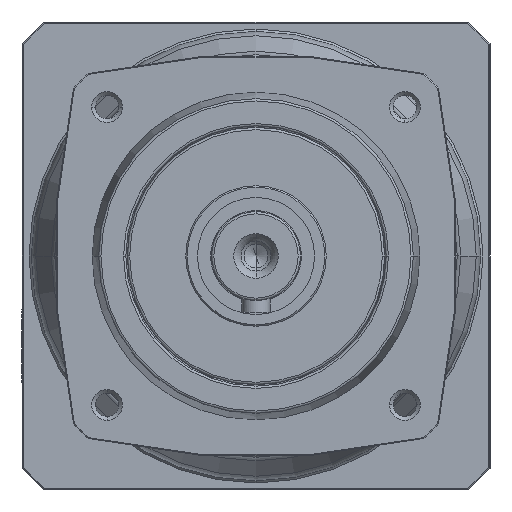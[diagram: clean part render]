
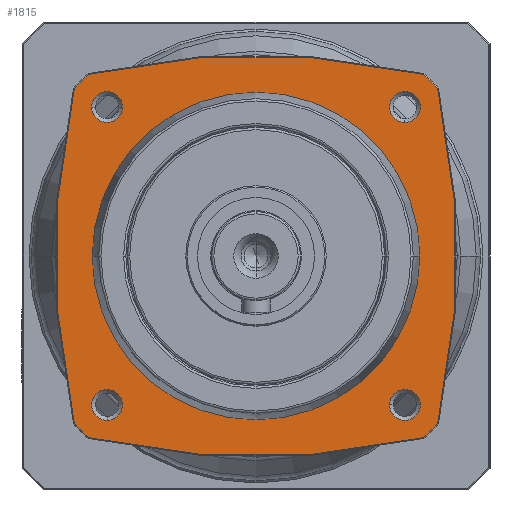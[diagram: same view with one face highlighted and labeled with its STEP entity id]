
A CAD part, left-side view. The second image highlights one B-rep face of the part: STEP entity #1815.
In plain terms, the highlighted planar face has unit normal (-1, 0, 0).
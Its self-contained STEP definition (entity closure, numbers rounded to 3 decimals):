
#332=CARTESIAN_POINT('',(12.5,31.82,31.82));
#333=DIRECTION('',(1.,0.,0.));
#334=DIRECTION('',(0.,-1.,0.));
#335=AXIS2_PLACEMENT_3D('',#332,#333,#334);
#337=CARTESIAN_POINT('',(12.5,31.82,31.82));
#338=DIRECTION('',(1.,0.,0.));
#339=DIRECTION('',(0.,1.,0.));
#340=AXIS2_PLACEMENT_3D('',#337,#338,#339);
#342=CARTESIAN_POINT('',(12.5,31.82,-31.82));
#343=DIRECTION('',(1.,0.,0.));
#344=DIRECTION('',(0.,0.,-1.));
#345=AXIS2_PLACEMENT_3D('',#342,#343,#344);
#347=CARTESIAN_POINT('',(12.5,31.82,-31.82));
#348=DIRECTION('',(1.,0.,0.));
#349=DIRECTION('',(0.,0.,1.));
#350=AXIS2_PLACEMENT_3D('',#347,#348,#349);
#352=CARTESIAN_POINT('',(12.5,-31.82,-31.82));
#353=DIRECTION('',(1.,0.,0.));
#354=DIRECTION('',(0.,-1.,0.));
#355=AXIS2_PLACEMENT_3D('',#352,#353,#354);
#357=CARTESIAN_POINT('',(12.5,-31.82,-31.82));
#358=DIRECTION('',(1.,0.,0.));
#359=DIRECTION('',(0.,1.,0.));
#360=AXIS2_PLACEMENT_3D('',#357,#358,#359);
#362=CARTESIAN_POINT('',(12.5,-31.82,31.82));
#363=DIRECTION('',(1.,0.,0.));
#364=DIRECTION('',(0.,0.,1.));
#365=AXIS2_PLACEMENT_3D('',#362,#363,#364);
#367=CARTESIAN_POINT('',(12.5,-31.82,31.82));
#368=DIRECTION('',(1.,0.,0.));
#369=DIRECTION('',(0.,0.,-1.));
#370=AXIS2_PLACEMENT_3D('',#367,#368,#369);
#372=CARTESIAN_POINT('',(12.5,0.,0.));
#373=DIRECTION('',(-1.,0.,0.));
#374=DIRECTION('',(0.,1.,0.));
#375=AXIS2_PLACEMENT_3D('',#372,#373,#374);
#377=CARTESIAN_POINT('',(12.5,0.,0.));
#378=DIRECTION('',(-1.,0.,0.));
#379=DIRECTION('',(0.,-1.,0.));
#380=AXIS2_PLACEMENT_3D('',#377,#378,#379);
#382=CARTESIAN_POINT('',(12.5,-120.,0.));
#383=DIRECTION('',(-1.,0.,0.));
#384=DIRECTION('',(0.,0.976,0.22));
#385=AXIS2_PLACEMENT_3D('',#382,#383,#384);
#387=CARTESIAN_POINT('',(12.5,0.,0.));
#388=DIRECTION('',(-1.,0.,0.));
#389=DIRECTION('',(0.,0.678,0.735));
#390=AXIS2_PLACEMENT_3D('',#387,#388,#389);
#392=CARTESIAN_POINT('',(12.5,0.,-120.));
#393=DIRECTION('',(-1.,0.,0.));
#394=DIRECTION('',(0.,-0.22,0.976));
#395=AXIS2_PLACEMENT_3D('',#392,#393,#394);
#397=CARTESIAN_POINT('',(12.5,0.,0.));
#398=DIRECTION('',(-1.,0.,0.));
#399=DIRECTION('',(0.,-0.735,0.678));
#400=AXIS2_PLACEMENT_3D('',#397,#398,#399);
#402=CARTESIAN_POINT('',(12.5,120.,0.));
#403=DIRECTION('',(-1.,0.,0.));
#404=DIRECTION('',(0.,-0.976,-0.22));
#405=AXIS2_PLACEMENT_3D('',#402,#403,#404);
#407=CARTESIAN_POINT('',(12.5,0.,0.));
#408=DIRECTION('',(-1.,0.,0.));
#409=DIRECTION('',(0.,-0.678,-0.735));
#410=AXIS2_PLACEMENT_3D('',#407,#408,#409);
#412=CARTESIAN_POINT('',(12.5,0.,120.));
#413=DIRECTION('',(-1.,0.,0.));
#414=DIRECTION('',(0.,0.22,-0.976));
#415=AXIS2_PLACEMENT_3D('',#412,#413,#414);
#417=CARTESIAN_POINT('',(12.5,0.,0.));
#418=DIRECTION('',(-1.,0.,0.));
#419=DIRECTION('',(0.,0.735,-0.678));
#420=AXIS2_PLACEMENT_3D('',#417,#418,#419);
#815=CARTESIAN_POINT('',(12.5,-35.792,38.817));
#822=CARTESIAN_POINT('',(12.5,35.792,38.817));
#843=CARTESIAN_POINT('',(12.5,35.792,-38.817));
#864=CARTESIAN_POINT('',(12.5,-38.817,35.792));
#1081=CARTESIAN_POINT('',(12.5,28.52,31.82));
#1082=CARTESIAN_POINT('',(12.5,35.12,31.82));
#1083=VERTEX_POINT('',#1081);
#1084=VERTEX_POINT('',#1082);
#1085=CARTESIAN_POINT('',(12.5,31.82,-35.12));
#1086=CARTESIAN_POINT('',(12.5,31.82,-28.52));
#1087=VERTEX_POINT('',#1085);
#1088=VERTEX_POINT('',#1086);
#1089=CARTESIAN_POINT('',(12.5,-35.12,
-31.82));
#1090=CARTESIAN_POINT('',(12.5,-28.52,
-31.82));
#1091=VERTEX_POINT('',#1089);
#1092=VERTEX_POINT('',#1090);
#1093=CARTESIAN_POINT('',(12.5,-31.82,35.12));
#1094=CARTESIAN_POINT('',(12.5,-31.82,28.52));
#1095=VERTEX_POINT('',#1093);
#1096=VERTEX_POINT('',#1094);
#1105=CARTESIAN_POINT('',(12.5,38.817,35.792));
#1106=CARTESIAN_POINT('',(12.5,38.817,-35.792));
#1107=VERTEX_POINT('',#1105);
#1108=VERTEX_POINT('',#1106);
#1114=VERTEX_POINT('',#815);
#1116=VERTEX_POINT('',#822);
#1156=VERTEX_POINT('',#864);
#1164=VERTEX_POINT('',#843);
#1169=CARTESIAN_POINT('',(12.5,-38.817,-35.792));
#1170=VERTEX_POINT('',#1169);
#1171=CARTESIAN_POINT('',(12.5,-35.792,-38.817));
#1172=VERTEX_POINT('',#1171);
#1183=CARTESIAN_POINT('',(12.5,35.,0.));
#1184=CARTESIAN_POINT('',(12.5,-35.,0.));
#1185=VERTEX_POINT('',#1183);
#1186=VERTEX_POINT('',#1184);
#1763=CARTESIAN_POINT('',(12.5,0.,0.));
#1764=DIRECTION('',(-1.,0.,0.));
#1765=DIRECTION('',(0.,1.,0.));
#1766=AXIS2_PLACEMENT_3D('',#1763,#1764,#1765);
#1767=PLANE('',#1766);
#1769=ORIENTED_EDGE('',*,*,#1768,.F.);
#1771=ORIENTED_EDGE('',*,*,#1770,.F.);
#1773=ORIENTED_EDGE('',*,*,#1772,.F.);
#1775=ORIENTED_EDGE('',*,*,#1774,.F.);
#1777=ORIENTED_EDGE('',*,*,#1776,.F.);
#1779=ORIENTED_EDGE('',*,*,#1778,.F.);
#1781=ORIENTED_EDGE('',*,*,#1780,.F.);
#1783=ORIENTED_EDGE('',*,*,#1782,.F.);
#1784=EDGE_LOOP('',(#1769,#1771,#1773,#1775,#1777,#1779,#1781,#1783));
#1785=FACE_OUTER_BOUND('',#1784,.F.);
#1787=ORIENTED_EDGE('',*,*,#1786,.F.);
#1789=ORIENTED_EDGE('',*,*,#1788,.F.);
#1790=EDGE_LOOP('',(#1787,#1789));
#1791=FACE_BOUND('',#1790,.F.);
#1793=ORIENTED_EDGE('',*,*,#1792,.F.);
#1795=ORIENTED_EDGE('',*,*,#1794,.F.);
#1796=EDGE_LOOP('',(#1793,#1795));
#1797=FACE_BOUND('',#1796,.F.);
#1799=ORIENTED_EDGE('',*,*,#1798,.F.);
#1801=ORIENTED_EDGE('',*,*,#1800,.F.);
#1802=EDGE_LOOP('',(#1799,#1801));
#1803=FACE_BOUND('',#1802,.F.);
#1805=ORIENTED_EDGE('',*,*,#1804,.F.);
#1807=ORIENTED_EDGE('',*,*,#1806,.F.);
#1808=EDGE_LOOP('',(#1805,#1807));
#1809=FACE_BOUND('',#1808,.F.);
#1811=ORIENTED_EDGE('',*,*,#1810,.T.);
#1812=ORIENTED_EDGE('',*,*,#1753,.T.);
#1813=EDGE_LOOP('',(#1811,#1812));
#1814=FACE_BOUND('',#1813,.F.);
#1815=ADVANCED_FACE('',(#1785,#1791,#1797,#1803,#1809,#1814),#1767,.T.);
#336=CIRCLE('',#335,3.3);
#341=CIRCLE('',#340,3.3);
#346=CIRCLE('',#345,3.3);
#351=CIRCLE('',#350,3.3);
#356=CIRCLE('',#355,3.3);
#361=CIRCLE('',#360,3.3);
#366=CIRCLE('',#365,3.3);
#371=CIRCLE('',#370,3.3);
#376=CIRCLE('',#375,35.);
#381=CIRCLE('',#380,35.);
#386=CIRCLE('',#385,162.8);
#391=CIRCLE('',#390,52.799);
#396=CIRCLE('',#395,162.8);
#401=CIRCLE('',#400,52.799);
#406=CIRCLE('',#405,162.8);
#411=CIRCLE('',#410,52.799);
#416=CIRCLE('',#415,162.8);
#421=CIRCLE('',#420,52.799);
#1753=EDGE_CURVE('',#1186,#1185,#381,.T.);
#1768=EDGE_CURVE('',#1107,#1108,#386,.T.);
#1770=EDGE_CURVE('',#1116,#1107,#391,.T.);
#1772=EDGE_CURVE('',#1114,#1116,#396,.T.);
#1774=EDGE_CURVE('',#1156,#1114,#401,.T.);
#1776=EDGE_CURVE('',#1170,#1156,#406,.T.);
#1778=EDGE_CURVE('',#1172,#1170,#411,.T.);
#1780=EDGE_CURVE('',#1164,#1172,#416,.T.);
#1782=EDGE_CURVE('',#1108,#1164,#421,.T.);
#1786=EDGE_CURVE('',#1083,#1084,#336,.T.);
#1788=EDGE_CURVE('',#1084,#1083,#341,.T.);
#1792=EDGE_CURVE('',#1087,#1088,#346,.T.);
#1794=EDGE_CURVE('',#1088,#1087,#351,.T.);
#1798=EDGE_CURVE('',#1091,#1092,#356,.T.);
#1800=EDGE_CURVE('',#1092,#1091,#361,.T.);
#1804=EDGE_CURVE('',#1095,#1096,#366,.T.);
#1806=EDGE_CURVE('',#1096,#1095,#371,.T.);
#1810=EDGE_CURVE('',#1185,#1186,#376,.T.);
